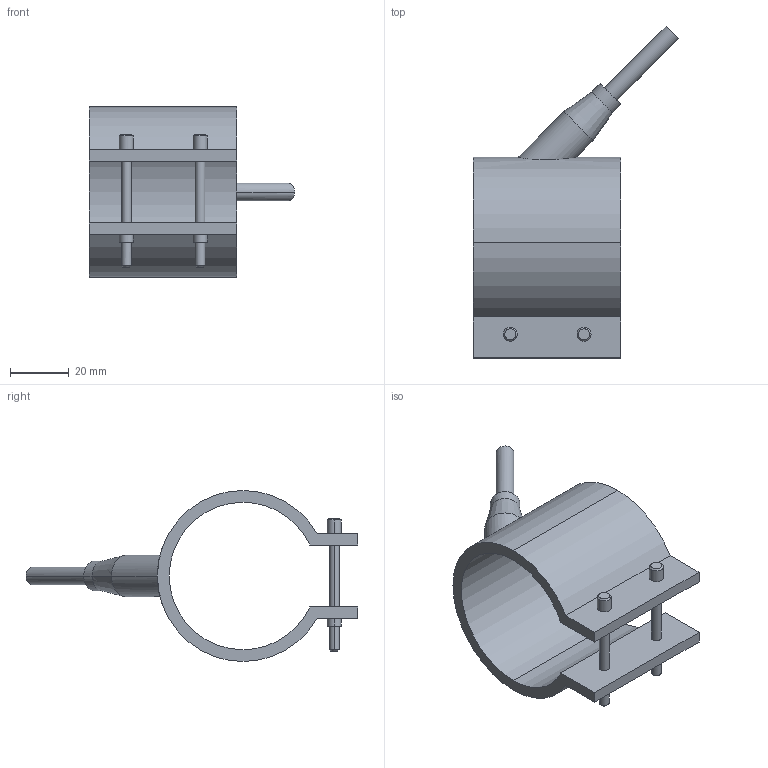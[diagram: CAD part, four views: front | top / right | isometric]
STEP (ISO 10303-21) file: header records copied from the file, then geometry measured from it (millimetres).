
FILE_DESCRIPTION(('CATIA V5 STEP Exchange'),'2;1');
FILE_NAME('C:\Users\Utente\Desktop\IO LAVORO\3D X SITO CF\X SITO\PLASTICA\RF1\29050050.stp','2021-03-27T09:40:42+00:00',('none'),('none'),'CATIA Version 5 Release 20 GA (IN-10)','CATIA V5 STEP AP203','none');
FILE_SCHEMA(('CONFIG_CONTROL_DESIGN'));
Length unit declared in the file: millimetre
Products named in the file (1): 29050050
Bounding box: 69.55 x 112.55 x 58 mm (x, y, z)
Volume: 40339.7 mm3; surface area: 21628.4 mm2
Topology: 1 solids, 1 shells, 54 faces, 124 edges, 80 vertices
Faces by surface type: cylinder 28, plane 16, cone 10
Entity records: 1714 total; most frequent: CARTESIAN_POINT 473, ORIENTED_EDGE 248, DIRECTION 215, EDGE_CURVE 124, AXIS2_PLACEMENT_3D 108, VERTEX_POINT 80, EDGE_LOOP 66, VECTOR 56
